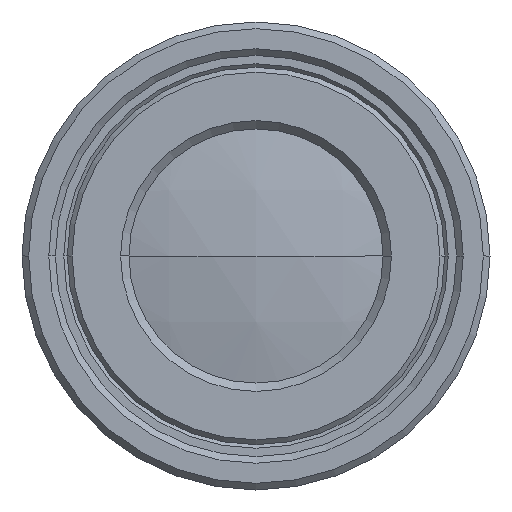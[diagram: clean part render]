
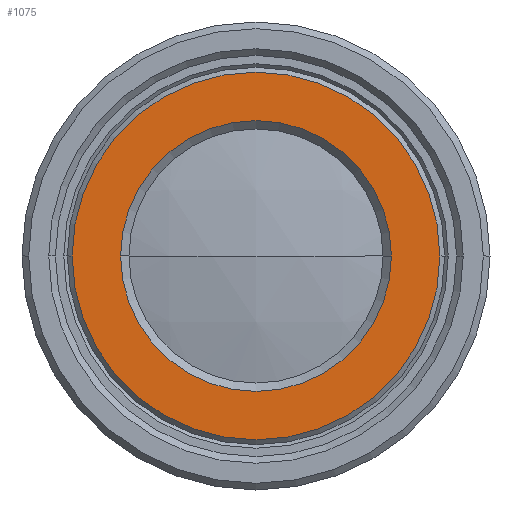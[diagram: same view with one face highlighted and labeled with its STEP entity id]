
A CAD part, left-side view. The second image highlights one B-rep face of the part: STEP entity #1075.
In plain terms, the highlighted planar face has unit normal (-1, 0, 0).
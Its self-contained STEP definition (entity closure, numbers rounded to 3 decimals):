
#61 = EDGE_LOOP ( 'NONE', ( #1001, #421 ) ) ;
#143 = CARTESIAN_POINT ( 'NONE',  ( -18.29, 5.5, 0. ) ) ;
#167 = DIRECTION ( 'NONE',  ( 0., -1., 0. ) ) ;
#176 = DIRECTION ( 'NONE',  ( 0., -1., 0. ) ) ;
#206 = VERTEX_POINT ( 'NONE', #819 ) ;
#253 = AXIS2_PLACEMENT_3D ( 'NONE', #365, #466, #1191 ) ;
#274 = CARTESIAN_POINT ( 'NONE',  ( -18.29, -5.5, 0. ) ) ;
#298 = EDGE_CURVE ( 'NONE', #206, #666, #1239, .T. ) ;
#325 = VERTEX_POINT ( 'NONE', #274 ) ;
#328 = CARTESIAN_POINT ( 'NONE',  ( -18.29, 4.05, 0. ) ) ;
#331 = ORIENTED_EDGE ( 'NONE', *, *, #298, .F. ) ;
#365 = CARTESIAN_POINT ( 'NONE',  ( -18.29, 0., 0. ) ) ;
#380 = EDGE_CURVE ( 'NONE', #666, #206, #388, .T. ) ;
#388 = CIRCLE ( 'NONE', #874, 4.05 ) ;
#420 = DIRECTION ( 'NONE',  ( -1., 0., 0. ) ) ;
#421 = ORIENTED_EDGE ( 'NONE', *, *, #1062, .T. ) ;
#422 = FACE_OUTER_BOUND ( 'NONE', #61, .T. ) ;
#466 = DIRECTION ( 'NONE',  ( -1., 0., 0. ) ) ;
#472 = AXIS2_PLACEMENT_3D ( 'NONE', #1334, #596, #176 ) ;
#537 = PLANE ( 'NONE',  #1045 ) ;
#596 = DIRECTION ( 'NONE',  ( -1., 0., 0. ) ) ;
#666 = VERTEX_POINT ( 'NONE', #951 ) ;
#694 = VERTEX_POINT ( 'NONE', #143 ) ;
#786 = DIRECTION ( 'NONE',  ( -1., 0., 0. ) ) ;
#819 = CARTESIAN_POINT ( 'NONE',  ( -18.29, -4.05, 0. ) ) ;
#845 = DIRECTION ( 'NONE',  ( 1., 0., 0. ) ) ;
#874 = AXIS2_PLACEMENT_3D ( 'NONE', #997, #786, #167 ) ;
#951 = CARTESIAN_POINT ( 'NONE',  ( -18.29, 4.05, 0. ) ) ;
#989 = CIRCLE ( 'NONE', #992, 5.5 ) ;
#992 = AXIS2_PLACEMENT_3D ( 'NONE', #1156, #420, #1163 ) ;
#993 = ORIENTED_EDGE ( 'NONE', *, *, #380, .F. ) ;
#997 = CARTESIAN_POINT ( 'NONE',  ( -18.29, 0., 0. ) ) ;
#1001 = ORIENTED_EDGE ( 'NONE', *, *, #1267, .T. ) ;
#1045 = AXIS2_PLACEMENT_3D ( 'NONE', #328, #845, #1262 ) ;
#1062 = EDGE_CURVE ( 'NONE', #325, #694, #989, .T. ) ;
#1075 = ADVANCED_FACE ( 'NONE', ( #1271, #422 ), #537, .F. ) ;
#1156 = CARTESIAN_POINT ( 'NONE',  ( -18.29, 0., 0. ) ) ;
#1159 = CIRCLE ( 'NONE', #472, 5.5 ) ;
#1163 = DIRECTION ( 'NONE',  ( 0., -1., 0. ) ) ;
#1179 = EDGE_LOOP ( 'NONE', ( #331, #993 ) ) ;
#1191 = DIRECTION ( 'NONE',  ( 0., -1., 0. ) ) ;
#1239 = CIRCLE ( 'NONE', #253, 4.05 ) ;
#1262 = DIRECTION ( 'NONE',  ( 0., 1., 0. ) ) ;
#1267 = EDGE_CURVE ( 'NONE', #694, #325, #1159, .T. ) ;
#1271 = FACE_BOUND ( 'NONE', #1179, .T. ) ;
#1334 = CARTESIAN_POINT ( 'NONE',  ( -18.29, 0., 0. ) ) ;
